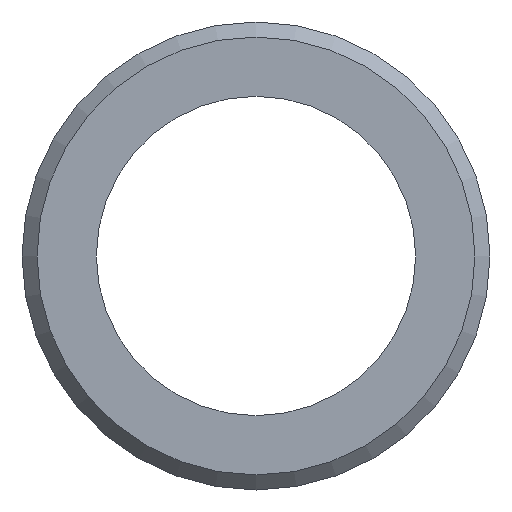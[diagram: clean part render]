
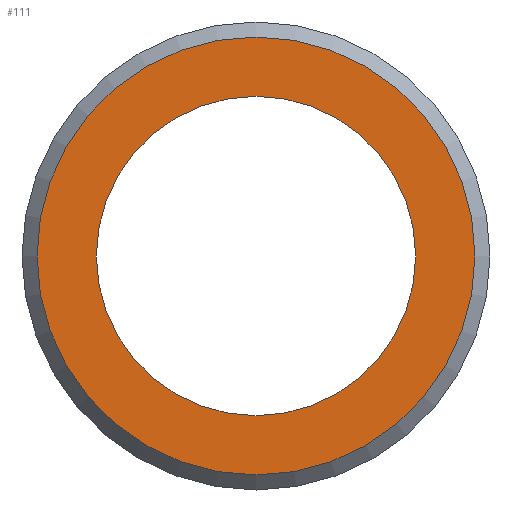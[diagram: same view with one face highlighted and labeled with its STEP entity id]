
A CAD part, front view. The second image highlights one B-rep face of the part: STEP entity #111.
In plain terms, the highlighted planar face has unit normal (0, -1, 0).
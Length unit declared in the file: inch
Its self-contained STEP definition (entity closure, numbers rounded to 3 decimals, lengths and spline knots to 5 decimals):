
#16=FACE_BOUND('',#33,.T.);
#18=PLANE('',#139);
#25=FACE_OUTER_BOUND('',#32,.T.);
#32=EDGE_LOOP('',(#96));
#33=EDGE_LOOP('',(#97,#98));
#50=CIRCLE('',#138,0.144);
#51=CIRCLE('',#140,0.105);
#52=CIRCLE('',#141,0.105);
#60=VERTEX_POINT('',#202);
#61=VERTEX_POINT('',#206);
#62=VERTEX_POINT('',#207);
#72=EDGE_CURVE('',#60,#60,#50,.T.);
#74=EDGE_CURVE('',#61,#62,#51,.T.);
#75=EDGE_CURVE('',#62,#61,#52,.T.);
#96=ORIENTED_EDGE('',*,*,#72,.F.);
#97=ORIENTED_EDGE('',*,*,#74,.F.);
#98=ORIENTED_EDGE('',*,*,#75,.F.);
#111=ADVANCED_FACE('',(#25,#16),#18,.T.);
#138=AXIS2_PLACEMENT_3D('',#203,#169,#170);
#139=AXIS2_PLACEMENT_3D('',#205,#172,#173);
#140=AXIS2_PLACEMENT_3D('',#208,#174,#175);
#141=AXIS2_PLACEMENT_3D('',#209,#176,#177);
#169=DIRECTION('center_axis',(0.,1.,0.));
#170=DIRECTION('ref_axis',(0.,0.,1.));
#172=DIRECTION('center_axis',(0.,-1.,0.));
#173=DIRECTION('ref_axis',(0.,0.,-1.));
#174=DIRECTION('center_axis',(0.,-1.,0.));
#175=DIRECTION('ref_axis',(1.,0.,0.));
#176=DIRECTION('center_axis',(0.,-1.,0.));
#177=DIRECTION('ref_axis',(1.,0.,0.));
#202=CARTESIAN_POINT('',(0.,0.,-0.144));
#203=CARTESIAN_POINT('Origin',(0.,0.,0.));
#205=CARTESIAN_POINT('Origin',(0.,0.,-0.105));
#206=CARTESIAN_POINT('',(0.,0.,-0.105));
#207=CARTESIAN_POINT('',(0.,0.,0.105));
#208=CARTESIAN_POINT('Origin',(0.,0.,0.));
#209=CARTESIAN_POINT('Origin',(0.,0.,0.));
